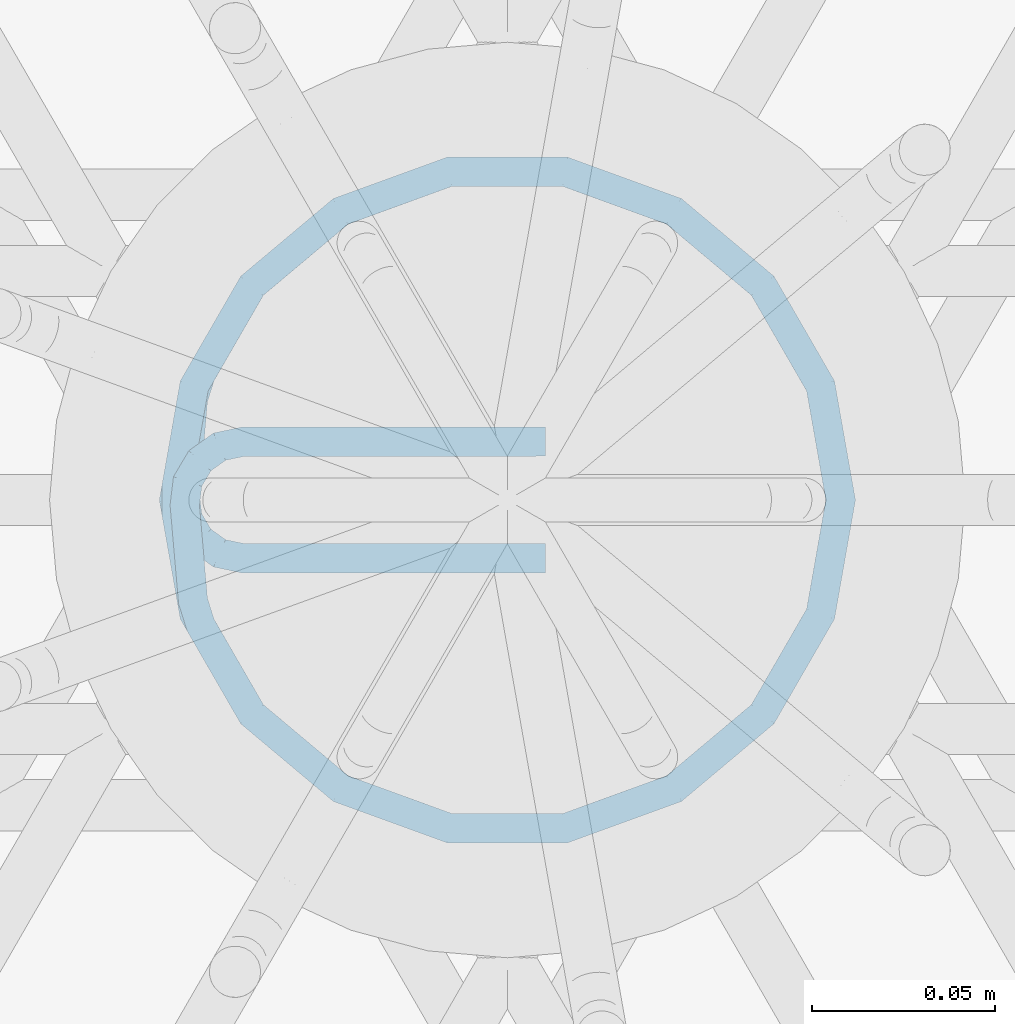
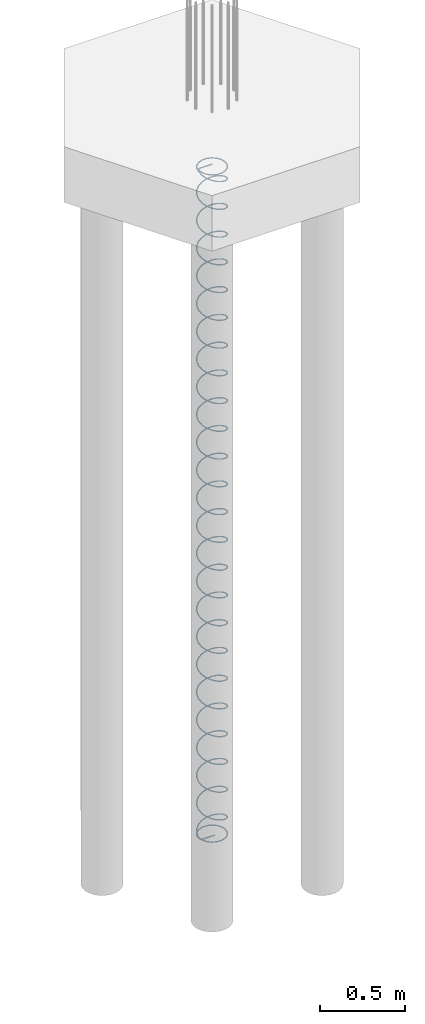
# One storey, part 16 of 23: 1 reinforcing bar.
"""IFC2X3 building model written with IfcOpenShell, lengths in metres."""

from ifc_helpers import new_model, entity, si_unit, direction, frame, origin, place, context, subcontext, project, spatial, shape, source, transform, mapped, element, save


model = new_model("IFC2X3")

# Units and contexts
model_context = context("Model", 3, precision=0.0, world=origin(), true_north=direction((0.0, 1.0)))
plan_context = context("Plan", 3, precision=0.0, world=origin(), true_north=direction((0.0, 1.0)))
body_context = subcontext(model_context, "Body", "Model", "MODEL_VIEW", scale=1.0)
ifc_project = project(units=[si_unit("LENGTHUNIT", "METRE"), si_unit("AREAUNIT", "SQUARE_METRE"), si_unit("VOLUMEUNIT", "CUBIC_METRE"), si_unit("PLANEANGLEUNIT", "RADIAN"), si_unit("THERMODYNAMICTEMPERATUREUNIT", "DEGREE_CELSIUS"), si_unit("FORCEUNIT", "NEWTON"), si_unit("MASSUNIT", "GRAM", prefix="KILO")], contexts=[model_context, plan_context])

# Site, building, storey
placement = place(None, origin())
site = spatial("IfcSite", under=ifc_project, at=placement, Name="Default Site", CompositionType="ELEMENT")
building = spatial("IfcBuilding", under=site, at=placement, Name="Default Building", CompositionType="ELEMENT")
storey_placement = place(placement, frame((0.0, 0.0, 0.0), z_axis=(1.0, 0.0, 0.0), x_axis=(0.0, 0.0, 1.0)))
storey = spatial("IfcBuildingStorey", under=building, at=storey_placement, Name="Piano 0", CompositionType="ELEMENT", Elevation=0.0)

# Reinforcing bar
shared_shape = source(origin(), body_context, None, "AdvancedSweptSolid", [
    entity("IfcSweptDiskSolid", entity("IfcCompositeCurve", [entity("IfcCompositeCurveSegment", "CONTINUOUS", True, entity("IfcPolyline", [entity("IfcCartesianPoint", [0.0, 0.0, 0.0]), entity("IfcCartesianPoint", [-0.08255, 0.0, 0.0]), entity("IfcCartesianPoint", [-0.088992, -0.001354, -1.3e-05]), entity("IfcCartesianPoint", [-0.094343, -0.005186, -4.9e-05]), entity("IfcCartesianPoint", [-0.097699, -0.010849, -0.000103]), entity("IfcCartesianPoint", [-0.09849, -0.017383, -0.000164]), entity("IfcCartesianPoint", [-0.096222, -0.043503, -0.000411]), entity("IfcCartesianPoint", [-0.094139, -0.050118, -0.000494]), entity("IfcCartesianPoint", [-0.080113, -0.074411, -0.000889]), entity("IfcCartesianPoint", [-0.055903, -0.094726, -0.001333]), entity("IfcCartesianPoint", [-0.026205, -0.105535, -0.001778]), entity("IfcCartesianPoint", [0.005399, -0.105535, -0.002222]), entity("IfcCartesianPoint", [0.035097, -0.094726, -0.002667]), entity("IfcCartesianPoint", [0.059307, -0.074411, -0.003111]), entity("IfcCartesianPoint", [0.075109, -0.047042, -0.003556]), entity("IfcCartesianPoint", [0.080597, -0.015918, -0.004]), entity("IfcCartesianPoint", [0.075109, 0.015206, -0.004444]), entity("IfcCartesianPoint", [0.059307, 0.042576, -0.004889]), entity("IfcCartesianPoint", [0.035097, 0.062891, -0.005333]), entity("IfcCartesianPoint", [0.005399, 0.0737, -0.005778]), entity("IfcCartesianPoint", [-0.026205, 0.0737, -0.006222]), entity("IfcCartesianPoint", [-0.055903, 0.062891, -0.006667]), entity("IfcCartesianPoint", [-0.080113, 0.042576, -0.007111]), entity("IfcCartesianPoint", [-0.095915, 0.015206, -0.007556]), entity("IfcCartesianPoint", [-0.100736, -0.012136, -0.007946]), entity("IfcCartesianPoint", [-0.100774, -0.019485, -0.009274]), entity("IfcCartesianPoint", [-0.095915, -0.047042, -0.019111]), entity("IfcCartesianPoint", [-0.080113, -0.074411, -0.030222]), entity("IfcCartesianPoint", [-0.055903, -0.094726, -0.041333]), entity("IfcCartesianPoint", [-0.026205, -0.105535, -0.052444]), entity("IfcCartesianPoint", [0.005399, -0.105535, -0.063556]), entity("IfcCartesianPoint", [0.035097, -0.094726, -0.074667]), entity("IfcCartesianPoint", [0.059307, -0.074411, -0.085778]), entity("IfcCartesianPoint", [0.075109, -0.047042, -0.096889]), entity("IfcCartesianPoint", [0.080597, -0.015918, -0.108]), entity("IfcCartesianPoint", [0.075109, 0.015206, -0.119111]), entity("IfcCartesianPoint", [0.059307, 0.042576, -0.130222]), entity("IfcCartesianPoint", [0.035097, 0.062891, -0.141333]), entity("IfcCartesianPoint", [0.005399, 0.0737, -0.152444]), entity("IfcCartesianPoint", [-0.026205, 0.0737, -0.163556]), entity("IfcCartesianPoint", [-0.055903, 0.062891, -0.174667]), entity("IfcCartesianPoint", [-0.080113, 0.042576, -0.185778]), entity("IfcCartesianPoint", [-0.095915, 0.015206, -0.196889]), entity("IfcCartesianPoint", [-0.101403, -0.015918, -0.208]), entity("IfcCartesianPoint", [-0.095915, -0.047042, -0.219111]), entity("IfcCartesianPoint", [-0.080113, -0.074411, -0.230222]), entity("IfcCartesianPoint", [-0.055903, -0.094726, -0.241333]), entity("IfcCartesianPoint", [-0.026205, -0.105535, -0.252444]), entity("IfcCartesianPoint", [0.005399, -0.105535, -0.263556]), entity("IfcCartesianPoint", [0.035097, -0.094726, -0.274667]), entity("IfcCartesianPoint", [0.059307, -0.074411, -0.285778]), entity("IfcCartesianPoint", [0.075109, -0.047042, -0.296889]), entity("IfcCartesianPoint", [0.080597, -0.015918, -0.308]), entity("IfcCartesianPoint", [0.075109, 0.015206, -0.319111]), entity("IfcCartesianPoint", [0.059307, 0.042576, -0.330222]), entity("IfcCartesianPoint", [0.035097, 0.062891, -0.341333]), entity("IfcCartesianPoint", [0.005399, 0.0737, -0.352444]), entity("IfcCartesianPoint", [-0.026205, 0.0737, -0.363556]), entity("IfcCartesianPoint", [-0.055903, 0.062891, -0.374667]), entity("IfcCartesianPoint", [-0.080113, 0.042576, -0.385778]), entity("IfcCartesianPoint", [-0.095915, 0.015206, -0.396889]), entity("IfcCartesianPoint", [-0.101403, -0.015918, -0.408]), entity("IfcCartesianPoint", [-0.095915, -0.047042, -0.419111]), entity("IfcCartesianPoint", [-0.080113, -0.074411, -0.430222]), entity("IfcCartesianPoint", [-0.055903, -0.094726, -0.441333]), entity("IfcCartesianPoint", [-0.026205, -0.105535, -0.452444]), entity("IfcCartesianPoint", [0.005399, -0.105535, -0.463556]), entity("IfcCartesianPoint", [0.035097, -0.094726, -0.474667]), entity("IfcCartesianPoint", [0.059307, -0.074411, -0.485778]), entity("IfcCartesianPoint", [0.075109, -0.047042, -0.496889]), entity("IfcCartesianPoint", [0.080597, -0.015918, -0.508]), entity("IfcCartesianPoint", [0.075109, 0.015206, -0.519111]), entity("IfcCartesianPoint", [0.059307, 0.042576, -0.530222]), entity("IfcCartesianPoint", [0.035097, 0.062891, -0.541333]), entity("IfcCartesianPoint", [0.005399, 0.0737, -0.552444]), entity("IfcCartesianPoint", [-0.026205, 0.0737, -0.563556]), entity("IfcCartesianPoint", [-0.055903, 0.062891, -0.574667]), entity("IfcCartesianPoint", [-0.080113, 0.042576, -0.585778]), entity("IfcCartesianPoint", [-0.095915, 0.015206, -0.596889]), entity("IfcCartesianPoint", [-0.101403, -0.015918, -0.608]), entity("IfcCartesianPoint", [-0.095915, -0.047042, -0.619111]), entity("IfcCartesianPoint", [-0.080113, -0.074411, -0.630222]), entity("IfcCartesianPoint", [-0.055903, -0.094726, -0.641333]), entity("IfcCartesianPoint", [-0.026205, -0.105535, -0.652444]), entity("IfcCartesianPoint", [0.005399, -0.105535, -0.663556]), entity("IfcCartesianPoint", [0.035097, -0.094726, -0.674667]), entity("IfcCartesianPoint", [0.059307, -0.074411, -0.685778]), entity("IfcCartesianPoint", [0.075109, -0.047042, -0.696889]), entity("IfcCartesianPoint", [0.080597, -0.015918, -0.708]), entity("IfcCartesianPoint", [0.075109, 0.015206, -0.719111]), entity("IfcCartesianPoint", [0.059307, 0.042576, -0.730222]), entity("IfcCartesianPoint", [0.035097, 0.062891, -0.741333]), entity("IfcCartesianPoint", [0.005399, 0.0737, -0.752444]), entity("IfcCartesianPoint", [-0.026205, 0.0737, -0.763556]), entity("IfcCartesianPoint", [-0.055903, 0.062891, -0.774667]), entity("IfcCartesianPoint", [-0.080113, 0.042576, -0.785778]), entity("IfcCartesianPoint", [-0.095915, 0.015206, -0.796889]), entity("IfcCartesianPoint", [-0.101403, -0.015918, -0.808]), entity("IfcCartesianPoint", [-0.095915, -0.047042, -0.819111]), entity("IfcCartesianPoint", [-0.080113, -0.074411, -0.830222]), entity("IfcCartesianPoint", [-0.055903, -0.094726, -0.841333]), entity("IfcCartesianPoint", [-0.026205, -0.105535, -0.852444]), entity("IfcCartesianPoint", [0.005399, -0.105535, -0.863556]), entity("IfcCartesianPoint", [0.035097, -0.094726, -0.874667]), entity("IfcCartesianPoint", [0.059307, -0.074411, -0.885778]), entity("IfcCartesianPoint", [0.075109, -0.047042, -0.896889]), entity("IfcCartesianPoint", [0.080597, -0.015918, -0.908]), entity("IfcCartesianPoint", [0.075109, 0.015206, -0.919111]), entity("IfcCartesianPoint", [0.059307, 0.042576, -0.930222]), entity("IfcCartesianPoint", [0.035097, 0.062891, -0.941333]), entity("IfcCartesianPoint", [0.005399, 0.0737, -0.952444]), entity("IfcCartesianPoint", [-0.026205, 0.0737, -0.963556]), entity("IfcCartesianPoint", [-0.055903, 0.062891, -0.974667]), entity("IfcCartesianPoint", [-0.080113, 0.042576, -0.985778]), entity("IfcCartesianPoint", [-0.095915, 0.015206, -0.996889]), entity("IfcCartesianPoint", [-0.101403, -0.015918, -1.008]), entity("IfcCartesianPoint", [-0.095915, -0.047042, -1.019111]), entity("IfcCartesianPoint", [-0.080113, -0.074411, -1.030222]), entity("IfcCartesianPoint", [-0.055903, -0.094726, -1.041333]), entity("IfcCartesianPoint", [-0.026205, -0.105535, -1.052444]), entity("IfcCartesianPoint", [0.005399, -0.105535, -1.063556]), entity("IfcCartesianPoint", [0.035097, -0.094726, -1.074667]), entity("IfcCartesianPoint", [0.059307, -0.074411, -1.085778]), entity("IfcCartesianPoint", [0.075109, -0.047042, -1.096889]), entity("IfcCartesianPoint", [0.080597, -0.015918, -1.108]), entity("IfcCartesianPoint", [0.075109, 0.015206, -1.119111]), entity("IfcCartesianPoint", [0.059307, 0.042576, -1.130222]), entity("IfcCartesianPoint", [0.035097, 0.062891, -1.141333]), entity("IfcCartesianPoint", [0.005399, 0.0737, -1.152444]), entity("IfcCartesianPoint", [-0.026205, 0.0737, -1.163556]), entity("IfcCartesianPoint", [-0.055903, 0.062891, -1.174667]), entity("IfcCartesianPoint", [-0.080113, 0.042576, -1.185778]), entity("IfcCartesianPoint", [-0.095915, 0.015206, -1.196889]), entity("IfcCartesianPoint", [-0.101403, -0.015918, -1.208]), entity("IfcCartesianPoint", [-0.095915, -0.047042, -1.219111]), entity("IfcCartesianPoint", [-0.080113, -0.074411, -1.230222]), entity("IfcCartesianPoint", [-0.055903, -0.094726, -1.241333]), entity("IfcCartesianPoint", [-0.026205, -0.105535, -1.252444]), entity("IfcCartesianPoint", [0.005399, -0.105535, -1.263556]), entity("IfcCartesianPoint", [0.035097, -0.094726, -1.274667]), entity("IfcCartesianPoint", [0.059307, -0.074411, -1.285778]), entity("IfcCartesianPoint", [0.075109, -0.047042, -1.296889]), entity("IfcCartesianPoint", [0.080597, -0.015918, -1.308]), entity("IfcCartesianPoint", [0.075109, 0.015206, -1.319111]), entity("IfcCartesianPoint", [0.059307, 0.042576, -1.330222]), entity("IfcCartesianPoint", [0.035097, 0.062891, -1.341333]), entity("IfcCartesianPoint", [0.005399, 0.0737, -1.352444]), entity("IfcCartesianPoint", [-0.026205, 0.0737, -1.363556]), entity("IfcCartesianPoint", [-0.055903, 0.062891, -1.374667]), entity("IfcCartesianPoint", [-0.080113, 0.042576, -1.385778]), entity("IfcCartesianPoint", [-0.095915, 0.015206, -1.396889]), entity("IfcCartesianPoint", [-0.101403, -0.015918, -1.408]), entity("IfcCartesianPoint", [-0.095915, -0.047042, -1.419111]), entity("IfcCartesianPoint", [-0.080113, -0.074411, -1.430222]), entity("IfcCartesianPoint", [-0.055903, -0.094726, -1.441333]), entity("IfcCartesianPoint", [-0.026205, -0.105535, -1.452444]), entity("IfcCartesianPoint", [0.005399, -0.105535, -1.463556]), entity("IfcCartesianPoint", [0.035097, -0.094726, -1.474667]), entity("IfcCartesianPoint", [0.059307, -0.074411, -1.485778]), entity("IfcCartesianPoint", [0.075109, -0.047042, -1.496889]), entity("IfcCartesianPoint", [0.080597, -0.015918, -1.508]), entity("IfcCartesianPoint", [0.075109, 0.015206, -1.519111]), entity("IfcCartesianPoint", [0.059307, 0.042576, -1.530222]), entity("IfcCartesianPoint", [0.035097, 0.062891, -1.541333]), entity("IfcCartesianPoint", [0.005399, 0.0737, -1.552444]), entity("IfcCartesianPoint", [-0.026205, 0.0737, -1.563556]), entity("IfcCartesianPoint", [-0.055903, 0.062891, -1.574667]), entity("IfcCartesianPoint", [-0.080113, 0.042576, -1.585778]), entity("IfcCartesianPoint", [-0.095915, 0.015206, -1.596889]), entity("IfcCartesianPoint", [-0.101403, -0.015918, -1.608]), entity("IfcCartesianPoint", [-0.095915, -0.047042, -1.619111]), entity("IfcCartesianPoint", [-0.080113, -0.074411, -1.630222]), entity("IfcCartesianPoint", [-0.055903, -0.094726, -1.641333]), entity("IfcCartesianPoint", [-0.026205, -0.105535, -1.652444]), entity("IfcCartesianPoint", [0.005399, -0.105535, -1.663556]), entity("IfcCartesianPoint", [0.035097, -0.094726, -1.674667]), entity("IfcCartesianPoint", [0.059307, -0.074411, -1.685778]), entity("IfcCartesianPoint", [0.075109, -0.047042, -1.696889]), entity("IfcCartesianPoint", [0.080597, -0.015918, -1.708]), entity("IfcCartesianPoint", [0.075109, 0.015206, -1.719111]), entity("IfcCartesianPoint", [0.059307, 0.042576, -1.730222]), entity("IfcCartesianPoint", [0.035097, 0.062891, -1.741333]), entity("IfcCartesianPoint", [0.005399, 0.0737, -1.752444]), entity("IfcCartesianPoint", [-0.026205, 0.0737, -1.763556]), entity("IfcCartesianPoint", [-0.055903, 0.062891, -1.774667]), entity("IfcCartesianPoint", [-0.080113, 0.042576, -1.785778]), entity("IfcCartesianPoint", [-0.095915, 0.015206, -1.796889]), entity("IfcCartesianPoint", [-0.101403, -0.015918, -1.808]), entity("IfcCartesianPoint", [-0.095915, -0.047042, -1.819111]), entity("IfcCartesianPoint", [-0.080113, -0.074411, -1.830222]), entity("IfcCartesianPoint", [-0.055903, -0.094726, -1.841333]), entity("IfcCartesianPoint", [-0.026205, -0.105535, -1.852444]), entity("IfcCartesianPoint", [0.005399, -0.105535, -1.863556]), entity("IfcCartesianPoint", [0.035097, -0.094726, -1.874667]), entity("IfcCartesianPoint", [0.059307, -0.074411, -1.885778]), entity("IfcCartesianPoint", [0.075109, -0.047042, -1.896889]), entity("IfcCartesianPoint", [0.080597, -0.015918, -1.908]), entity("IfcCartesianPoint", [0.075109, 0.015206, -1.919111]), entity("IfcCartesianPoint", [0.059307, 0.042576, -1.930222]), entity("IfcCartesianPoint", [0.035097, 0.062891, -1.941333]), entity("IfcCartesianPoint", [0.005399, 0.0737, -1.952444]), entity("IfcCartesianPoint", [-0.026205, 0.0737, -1.963556]), entity("IfcCartesianPoint", [-0.055903, 0.062891, -1.974667]), entity("IfcCartesianPoint", [-0.080113, 0.042576, -1.985778]), entity("IfcCartesianPoint", [-0.095915, 0.015206, -1.996889]), entity("IfcCartesianPoint", [-0.101403, -0.015918, -2.008]), entity("IfcCartesianPoint", [-0.095915, -0.047042, -2.019111]), entity("IfcCartesianPoint", [-0.080113, -0.074411, -2.030222]), entity("IfcCartesianPoint", [-0.055903, -0.094726, -2.041333]), entity("IfcCartesianPoint", [-0.026205, -0.105535, -2.052444]), entity("IfcCartesianPoint", [0.005399, -0.105535, -2.063556]), entity("IfcCartesianPoint", [0.035097, -0.094726, -2.074667]), entity("IfcCartesianPoint", [0.059307, -0.074411, -2.085778]), entity("IfcCartesianPoint", [0.075109, -0.047042, -2.096889]), entity("IfcCartesianPoint", [0.080597, -0.015918, -2.108]), entity("IfcCartesianPoint", [0.075109, 0.015206, -2.119111]), entity("IfcCartesianPoint", [0.059307, 0.042576, -2.130222]), entity("IfcCartesianPoint", [0.035097, 0.062891, -2.141333]), entity("IfcCartesianPoint", [0.005399, 0.0737, -2.152444]), entity("IfcCartesianPoint", [-0.026205, 0.0737, -2.163556]), entity("IfcCartesianPoint", [-0.055903, 0.062891, -2.174667]), entity("IfcCartesianPoint", [-0.080113, 0.042576, -2.185778]), entity("IfcCartesianPoint", [-0.095915, 0.015206, -2.196889]), entity("IfcCartesianPoint", [-0.101403, -0.015918, -2.208]), entity("IfcCartesianPoint", [-0.095915, -0.047042, -2.219111]), entity("IfcCartesianPoint", [-0.080113, -0.074411, -2.230222]), entity("IfcCartesianPoint", [-0.055903, -0.094726, -2.241333]), entity("IfcCartesianPoint", [-0.026205, -0.105535, -2.252444]), entity("IfcCartesianPoint", [0.005399, -0.105535, -2.263556]), entity("IfcCartesianPoint", [0.035097, -0.094726, -2.274667]), entity("IfcCartesianPoint", [0.059307, -0.074411, -2.285778]), entity("IfcCartesianPoint", [0.075109, -0.047042, -2.296889]), entity("IfcCartesianPoint", [0.080597, -0.015918, -2.308]), entity("IfcCartesianPoint", [0.075109, 0.015206, -2.319111]), entity("IfcCartesianPoint", [0.059307, 0.042576, -2.330222]), entity("IfcCartesianPoint", [0.035097, 0.062891, -2.341333]), entity("IfcCartesianPoint", [0.005399, 0.0737, -2.352444]), entity("IfcCartesianPoint", [-0.026205, 0.0737, -2.363556]), entity("IfcCartesianPoint", [-0.055903, 0.062891, -2.374667]), entity("IfcCartesianPoint", [-0.080113, 0.042576, -2.385778]), entity("IfcCartesianPoint", [-0.095915, 0.015206, -2.396889]), entity("IfcCartesianPoint", [-0.101403, -0.015918, -2.408]), entity("IfcCartesianPoint", [-0.095915, -0.047042, -2.419111]), entity("IfcCartesianPoint", [-0.080113, -0.074411, -2.430222]), entity("IfcCartesianPoint", [-0.055903, -0.094726, -2.441333]), entity("IfcCartesianPoint", [-0.026205, -0.105535, -2.452444]), entity("IfcCartesianPoint", [0.005399, -0.105535, -2.463556]), entity("IfcCartesianPoint", [0.035097, -0.094726, -2.474667]), entity("IfcCartesianPoint", [0.059307, -0.074411, -2.485778]), entity("IfcCartesianPoint", [0.075109, -0.047042, -2.496889]), entity("IfcCartesianPoint", [0.080597, -0.015918, -2.508]), entity("IfcCartesianPoint", [0.075109, 0.015206, -2.519111]), entity("IfcCartesianPoint", [0.059307, 0.042576, -2.530222]), entity("IfcCartesianPoint", [0.035097, 0.062891, -2.541333]), entity("IfcCartesianPoint", [0.005399, 0.0737, -2.552444]), entity("IfcCartesianPoint", [-0.026205, 0.0737, -2.563556]), entity("IfcCartesianPoint", [-0.055903, 0.062891, -2.574667]), entity("IfcCartesianPoint", [-0.080113, 0.042576, -2.585778]), entity("IfcCartesianPoint", [-0.095915, 0.015206, -2.596889]), entity("IfcCartesianPoint", [-0.101403, -0.015918, -2.608]), entity("IfcCartesianPoint", [-0.095915, -0.047042, -2.619111]), entity("IfcCartesianPoint", [-0.080113, -0.074411, -2.630222]), entity("IfcCartesianPoint", [-0.055903, -0.094726, -2.641333]), entity("IfcCartesianPoint", [-0.026205, -0.105535, -2.652444]), entity("IfcCartesianPoint", [0.005399, -0.105535, -2.663556]), entity("IfcCartesianPoint", [0.035097, -0.094726, -2.674667]), entity("IfcCartesianPoint", [0.059307, -0.074411, -2.685778]), entity("IfcCartesianPoint", [0.075109, -0.047042, -2.696889]), entity("IfcCartesianPoint", [0.080597, -0.015918, -2.708]), entity("IfcCartesianPoint", [0.075109, 0.015206, -2.719111]), entity("IfcCartesianPoint", [0.059307, 0.042576, -2.730222]), entity("IfcCartesianPoint", [0.035097, 0.062891, -2.741333]), entity("IfcCartesianPoint", [0.005399, 0.0737, -2.752444]), entity("IfcCartesianPoint", [-0.026205, 0.0737, -2.763556]), entity("IfcCartesianPoint", [-0.055903, 0.062891, -2.774667]), entity("IfcCartesianPoint", [-0.080113, 0.042576, -2.785778]), entity("IfcCartesianPoint", [-0.095915, 0.015206, -2.796889]), entity("IfcCartesianPoint", [-0.101403, -0.015918, -2.808]), entity("IfcCartesianPoint", [-0.095915, -0.047042, -2.819111]), entity("IfcCartesianPoint", [-0.080113, -0.074411, -2.830222]), entity("IfcCartesianPoint", [-0.055903, -0.094726, -2.841333]), entity("IfcCartesianPoint", [-0.026205, -0.105535, -2.852444]), entity("IfcCartesianPoint", [0.005399, -0.105535, -2.863556]), entity("IfcCartesianPoint", [0.035097, -0.094726, -2.874667]), entity("IfcCartesianPoint", [0.059307, -0.074411, -2.885778]), entity("IfcCartesianPoint", [0.075109, -0.047042, -2.896889]), entity("IfcCartesianPoint", [0.080597, -0.015918, -2.908]), entity("IfcCartesianPoint", [0.075109, 0.015206, -2.919111]), entity("IfcCartesianPoint", [0.059307, 0.042576, -2.930222]), entity("IfcCartesianPoint", [0.035097, 0.062891, -2.941333]), entity("IfcCartesianPoint", [0.005399, 0.0737, -2.952444]), entity("IfcCartesianPoint", [-0.026205, 0.0737, -2.963556]), entity("IfcCartesianPoint", [-0.055903, 0.062891, -2.974667]), entity("IfcCartesianPoint", [-0.080113, 0.042576, -2.985778]), entity("IfcCartesianPoint", [-0.095915, 0.015206, -2.996889]), entity("IfcCartesianPoint", [-0.101403, -0.015918, -3.008]), entity("IfcCartesianPoint", [-0.095915, -0.047042, -3.019111]), entity("IfcCartesianPoint", [-0.080113, -0.074411, -3.030222]), entity("IfcCartesianPoint", [-0.055903, -0.094726, -3.041333]), entity("IfcCartesianPoint", [-0.026205, -0.105535, -3.052444]), entity("IfcCartesianPoint", [0.005399, -0.105535, -3.063556]), entity("IfcCartesianPoint", [0.035097, -0.094726, -3.074667]), entity("IfcCartesianPoint", [0.059307, -0.074411, -3.085778]), entity("IfcCartesianPoint", [0.075109, -0.047042, -3.096889]), entity("IfcCartesianPoint", [0.080597, -0.015918, -3.108]), entity("IfcCartesianPoint", [0.075109, 0.015206, -3.119111]), entity("IfcCartesianPoint", [0.059307, 0.042576, -3.130222]), entity("IfcCartesianPoint", [0.035097, 0.062891, -3.141333]), entity("IfcCartesianPoint", [0.005399, 0.0737, -3.152444]), entity("IfcCartesianPoint", [-0.026205, 0.0737, -3.163556]), entity("IfcCartesianPoint", [-0.055903, 0.062891, -3.174667]), entity("IfcCartesianPoint", [-0.080113, 0.042576, -3.185778]), entity("IfcCartesianPoint", [-0.095915, 0.015206, -3.196889]), entity("IfcCartesianPoint", [-0.101403, -0.015918, -3.208]), entity("IfcCartesianPoint", [-0.095915, -0.047042, -3.219111]), entity("IfcCartesianPoint", [-0.080113, -0.074411, -3.230222]), entity("IfcCartesianPoint", [-0.055903, -0.094726, -3.241333]), entity("IfcCartesianPoint", [-0.026205, -0.105535, -3.252444]), entity("IfcCartesianPoint", [0.005399, -0.105535, -3.263556]), entity("IfcCartesianPoint", [0.035097, -0.094726, -3.274667]), entity("IfcCartesianPoint", [0.059307, -0.074411, -3.285778]), entity("IfcCartesianPoint", [0.075109, -0.047042, -3.296889]), entity("IfcCartesianPoint", [0.080597, -0.015918, -3.308]), entity("IfcCartesianPoint", [0.075109, 0.015206, -3.319111]), entity("IfcCartesianPoint", [0.059307, 0.042576, -3.330222]), entity("IfcCartesianPoint", [0.035097, 0.062891, -3.341333]), entity("IfcCartesianPoint", [0.005399, 0.0737, -3.352444]), entity("IfcCartesianPoint", [-0.026205, 0.0737, -3.363556]), entity("IfcCartesianPoint", [-0.055903, 0.062891, -3.374667]), entity("IfcCartesianPoint", [-0.080113, 0.042576, -3.385778]), entity("IfcCartesianPoint", [-0.095915, 0.015206, -3.396889]), entity("IfcCartesianPoint", [-0.101403, -0.015918, -3.408]), entity("IfcCartesianPoint", [-0.095915, -0.047042, -3.419111]), entity("IfcCartesianPoint", [-0.080113, -0.074411, -3.430222]), entity("IfcCartesianPoint", [-0.055903, -0.094726, -3.441333]), entity("IfcCartesianPoint", [-0.026205, -0.105535, -3.452444]), entity("IfcCartesianPoint", [0.005399, -0.105535, -3.463556]), entity("IfcCartesianPoint", [0.035097, -0.094726, -3.474667]), entity("IfcCartesianPoint", [0.059307, -0.074411, -3.485778]), entity("IfcCartesianPoint", [0.075109, -0.047042, -3.496889]), entity("IfcCartesianPoint", [0.080597, -0.015918, -3.508]), entity("IfcCartesianPoint", [0.075109, 0.015206, -3.519111]), entity("IfcCartesianPoint", [0.059307, 0.042576, -3.530222]), entity("IfcCartesianPoint", [0.035097, 0.062891, -3.541333]), entity("IfcCartesianPoint", [0.005399, 0.0737, -3.552444]), entity("IfcCartesianPoint", [-0.026205, 0.0737, -3.563556]), entity("IfcCartesianPoint", [-0.055903, 0.062891, -3.574667]), entity("IfcCartesianPoint", [-0.080113, 0.042576, -3.585778]), entity("IfcCartesianPoint", [-0.095915, 0.015206, -3.596889]), entity("IfcCartesianPoint", [-0.101403, -0.015918, -3.608]), entity("IfcCartesianPoint", [-0.095915, -0.047042, -3.619111]), entity("IfcCartesianPoint", [-0.080113, -0.074411, -3.630222]), entity("IfcCartesianPoint", [-0.055903, -0.094726, -3.641333]), entity("IfcCartesianPoint", [-0.026205, -0.105535, -3.652444]), entity("IfcCartesianPoint", [0.005399, -0.105535, -3.663556]), entity("IfcCartesianPoint", [0.035097, -0.094726, -3.674667]), entity("IfcCartesianPoint", [0.059307, -0.074411, -3.685778]), entity("IfcCartesianPoint", [0.075109, -0.047042, -3.696889]), entity("IfcCartesianPoint", [0.080597, -0.015918, -3.708]), entity("IfcCartesianPoint", [0.075109, 0.015206, -3.719111]), entity("IfcCartesianPoint", [0.059307, 0.042576, -3.730222]), entity("IfcCartesianPoint", [0.035097, 0.062891, -3.741333]), entity("IfcCartesianPoint", [0.005399, 0.0737, -3.752444]), entity("IfcCartesianPoint", [-0.026205, 0.0737, -3.763556]), entity("IfcCartesianPoint", [-0.055903, 0.062891, -3.774667]), entity("IfcCartesianPoint", [-0.080113, 0.042576, -3.785778]), entity("IfcCartesianPoint", [-0.095915, 0.015206, -3.796889]), entity("IfcCartesianPoint", [-0.101403, -0.015918, -3.808]), entity("IfcCartesianPoint", [-0.095915, -0.047042, -3.819111]), entity("IfcCartesianPoint", [-0.080113, -0.074411, -3.830222]), entity("IfcCartesianPoint", [-0.055903, -0.094726, -3.841333]), entity("IfcCartesianPoint", [-0.026205, -0.105535, -3.852444]), entity("IfcCartesianPoint", [0.005399, -0.105535, -3.863556]), entity("IfcCartesianPoint", [0.035097, -0.094726, -3.874667]), entity("IfcCartesianPoint", [0.059307, -0.074411, -3.885778]), entity("IfcCartesianPoint", [0.075109, -0.047042, -3.896889]), entity("IfcCartesianPoint", [0.080597, -0.015918, -3.908]), entity("IfcCartesianPoint", [0.075109, 0.015206, -3.919111]), entity("IfcCartesianPoint", [0.059307, 0.042576, -3.930222]), entity("IfcCartesianPoint", [0.035097, 0.062891, -3.941333]), entity("IfcCartesianPoint", [0.005399, 0.0737, -3.952444]), entity("IfcCartesianPoint", [-0.026205, 0.0737, -3.963556]), entity("IfcCartesianPoint", [-0.055903, 0.062891, -3.974667]), entity("IfcCartesianPoint", [-0.080113, 0.042576, -3.985778]), entity("IfcCartesianPoint", [-0.095915, 0.015206, -3.996889]), entity("IfcCartesianPoint", [-0.101403, -0.015918, -4.008]), entity("IfcCartesianPoint", [-0.095915, -0.047042, -4.019111]), entity("IfcCartesianPoint", [-0.080113, -0.074411, -4.030222]), entity("IfcCartesianPoint", [-0.055903, -0.094726, -4.041333]), entity("IfcCartesianPoint", [-0.026205, -0.105535, -4.052444]), entity("IfcCartesianPoint", [0.005399, -0.105535, -4.063556]), entity("IfcCartesianPoint", [0.035097, -0.094726, -4.074667]), entity("IfcCartesianPoint", [0.059307, -0.074411, -4.085778]), entity("IfcCartesianPoint", [0.075109, -0.047042, -4.096889]), entity("IfcCartesianPoint", [0.080597, -0.015918, -4.108]), entity("IfcCartesianPoint", [0.075109, 0.015206, -4.119111]), entity("IfcCartesianPoint", [0.059307, 0.042576, -4.130222]), entity("IfcCartesianPoint", [0.035097, 0.062891, -4.141333]), entity("IfcCartesianPoint", [0.005399, 0.0737, -4.152444]), entity("IfcCartesianPoint", [-0.026205, 0.0737, -4.163556]), entity("IfcCartesianPoint", [-0.055903, 0.062891, -4.174667]), entity("IfcCartesianPoint", [-0.080113, 0.042576, -4.185778]), entity("IfcCartesianPoint", [-0.095915, 0.015206, -4.196889]), entity("IfcCartesianPoint", [-0.101403, -0.015918, -4.208]), entity("IfcCartesianPoint", [-0.095915, -0.047042, -4.219111]), entity("IfcCartesianPoint", [-0.080113, -0.074411, -4.230222]), entity("IfcCartesianPoint", [-0.055903, -0.094726, -4.241333]), entity("IfcCartesianPoint", [-0.026205, -0.105535, -4.252444]), entity("IfcCartesianPoint", [0.005399, -0.105535, -4.263556]), entity("IfcCartesianPoint", [0.035097, -0.094726, -4.274667]), entity("IfcCartesianPoint", [0.059307, -0.074411, -4.285778]), entity("IfcCartesianPoint", [0.075109, -0.047042, -4.296889]), entity("IfcCartesianPoint", [0.080597, -0.015918, -4.308]), entity("IfcCartesianPoint", [0.075109, 0.015206, -4.319111]), entity("IfcCartesianPoint", [0.059307, 0.042576, -4.330222]), entity("IfcCartesianPoint", [0.035097, 0.062891, -4.341333]), entity("IfcCartesianPoint", [0.005399, 0.0737, -4.352444]), entity("IfcCartesianPoint", [-0.026205, 0.0737, -4.363556]), entity("IfcCartesianPoint", [-0.055903, 0.062891, -4.374667]), entity("IfcCartesianPoint", [-0.080113, 0.042576, -4.385778]), entity("IfcCartesianPoint", [-0.095915, 0.015206, -4.396889]), entity("IfcCartesianPoint", [-0.101403, -0.015918, -4.408]), entity("IfcCartesianPoint", [-0.095915, -0.047042, -4.419111]), entity("IfcCartesianPoint", [-0.080113, -0.074411, -4.430222]), entity("IfcCartesianPoint", [-0.055903, -0.094726, -4.441333]), entity("IfcCartesianPoint", [-0.026205, -0.105535, -4.452444]), entity("IfcCartesianPoint", [0.005399, -0.105535, -4.463556]), entity("IfcCartesianPoint", [0.035097, -0.094726, -4.474667]), entity("IfcCartesianPoint", [0.059307, -0.074411, -4.485778]), entity("IfcCartesianPoint", [0.075109, -0.047042, -4.496889]), entity("IfcCartesianPoint", [0.080597, -0.015918, -4.508]), entity("IfcCartesianPoint", [0.075109, 0.015206, -4.519111]), entity("IfcCartesianPoint", [0.059307, 0.042576, -4.530222]), entity("IfcCartesianPoint", [0.035097, 0.062891, -4.541333]), entity("IfcCartesianPoint", [0.005399, 0.0737, -4.552444]), entity("IfcCartesianPoint", [-0.026205, 0.0737, -4.563556]), entity("IfcCartesianPoint", [-0.055903, 0.062891, -4.574667]), entity("IfcCartesianPoint", [-0.080113, 0.042576, -4.585778]), entity("IfcCartesianPoint", [-0.095915, 0.015206, -4.596889]), entity("IfcCartesianPoint", [-0.101403, -0.015918, -4.608]), entity("IfcCartesianPoint", [-0.095915, -0.047042, -4.619111]), entity("IfcCartesianPoint", [-0.080113, -0.074411, -4.630222]), entity("IfcCartesianPoint", [-0.055903, -0.094726, -4.641333]), entity("IfcCartesianPoint", [-0.026205, -0.105535, -4.652444]), entity("IfcCartesianPoint", [0.005399, -0.105535, -4.663556]), entity("IfcCartesianPoint", [0.035097, -0.094726, -4.674667]), entity("IfcCartesianPoint", [0.059307, -0.074411, -4.685778]), entity("IfcCartesianPoint", [0.075109, -0.047042, -4.696889]), entity("IfcCartesianPoint", [0.080597, -0.015918, -4.708]), entity("IfcCartesianPoint", [0.075109, 0.015206, -4.719111]), entity("IfcCartesianPoint", [0.059307, 0.042576, -4.730222]), entity("IfcCartesianPoint", [0.035097, 0.062891, -4.741333]), entity("IfcCartesianPoint", [0.005399, 0.0737, -4.752444]), entity("IfcCartesianPoint", [-0.026205, 0.0737, -4.763556]), entity("IfcCartesianPoint", [-0.055903, 0.062891, -4.774667]), entity("IfcCartesianPoint", [-0.080113, 0.042576, -4.785778]), entity("IfcCartesianPoint", [-0.095915, 0.015206, -4.796889]), entity("IfcCartesianPoint", [-0.100774, -0.01235, -4.806726]), entity("IfcCartesianPoint", [-0.100736, -0.019699, -4.808054]), entity("IfcCartesianPoint", [-0.095915, -0.047042, -4.808444]), entity("IfcCartesianPoint", [-0.080113, -0.074411, -4.808889]), entity("IfcCartesianPoint", [-0.055903, -0.094726, -4.809333]), entity("IfcCartesianPoint", [-0.026205, -0.105535, -4.809778]), entity("IfcCartesianPoint", [0.005399, -0.105535, -4.810222]), entity("IfcCartesianPoint", [0.035097, -0.094726, -4.810667]), entity("IfcCartesianPoint", [0.059307, -0.074411, -4.811111]), entity("IfcCartesianPoint", [0.075109, -0.047042, -4.811556]), entity("IfcCartesianPoint", [0.080597, -0.015918, -4.812]), entity("IfcCartesianPoint", [0.075109, 0.015206, -4.812444]), entity("IfcCartesianPoint", [0.059307, 0.042576, -4.812889]), entity("IfcCartesianPoint", [0.035097, 0.062891, -4.813333]), entity("IfcCartesianPoint", [0.005399, 0.0737, -4.813778]), entity("IfcCartesianPoint", [-0.026205, 0.0737, -4.814222]), entity("IfcCartesianPoint", [-0.055903, 0.062891, -4.814667]), entity("IfcCartesianPoint", [-0.080113, 0.042576, -4.815111]), entity("IfcCartesianPoint", [-0.094139, 0.018282, -4.815506]), entity("IfcCartesianPoint", [-0.096222, 0.011667, -4.815589]), entity("IfcCartesianPoint", [-0.09849, -0.014452, -4.815836]), entity("IfcCartesianPoint", [-0.097699, -0.020986, -4.815897]), entity("IfcCartesianPoint", [-0.094343, -0.026649, -4.815951]), entity("IfcCartesianPoint", [-0.088992, -0.030481, -4.815987]), entity("IfcCartesianPoint", [-0.08255, -0.031835, -4.816]), entity("IfcCartesianPoint", [0.0, -0.031835, -4.816])]))], False), 0.004, 0.0, 0.0),
])
element("IfcReinforcingBar", 1, at=placement, inside=storey, Name="Arm Staffa; Palo:7 Filo:3 [Piano:0]", BarLength=15.841196, BarRole="SHEAR", BarSurface="TEXTURED", NominalDiameter=0.008, shapes=[
    shape(body_context, None, "MappedRepresentation", [mapped(shared_shape, transform((8.010403, 0.015918, -0.492)))]),
])

save(model, "model.ifc")
